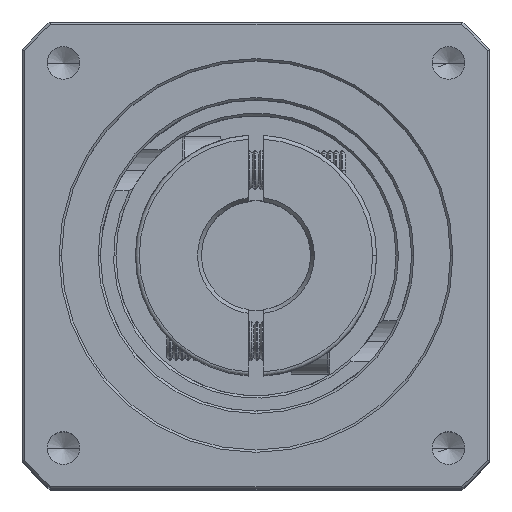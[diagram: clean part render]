
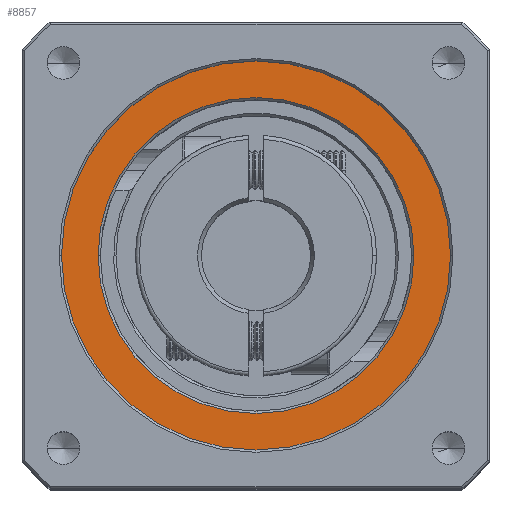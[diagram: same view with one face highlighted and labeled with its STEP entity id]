
A CAD part, top view. The second image highlights one B-rep face of the part: STEP entity #8857.
In plain terms, the highlighted planar face has unit normal (0, 0, 1).
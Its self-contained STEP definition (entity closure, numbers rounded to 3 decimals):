
#472 = EDGE_CURVE ( 'NONE', #55440, #30357, #14495, .T. ) ;
#2373 = CIRCLE ( 'NONE', #54409, 25. ) ;
#4090 = CARTESIAN_POINT ( 'NONE',  ( -62.157, 27.835, 27.243 ) ) ;
#4104 = ORIENTED_EDGE ( 'NONE', *, *, #37632, .T. ) ;
#6331 = FACE_BOUND ( 'NONE', #46602, .T. ) ;
#6811 = AXIS2_PLACEMENT_3D ( 'NONE', #9299, #56035, #15975 ) ;
#8857 = ADVANCED_FACE ( 'NONE', ( #6331, #21917 ), #73955, .T. ) ;
#9299 = CARTESIAN_POINT ( 'NONE',  ( -62.157, 27.835, 27.243 ) ) ;
#10065 = AXIS2_PLACEMENT_3D ( 'NONE', #4090, #50854, #10812 ) ;
#10812 = DIRECTION ( 'NONE',  ( 1., 0., 0. ) ) ;
#14223 = CARTESIAN_POINT ( 'NONE',  ( -62.157, 27.835, 27.243 ) ) ;
#14495 = CIRCLE ( 'NONE', #43330, 25. ) ;
#15975 = DIRECTION ( 'NONE',  ( 1., 0., 0. ) ) ;
#17378 = EDGE_CURVE ( 'NONE', #39615, #19668, #58118, .T. ) ;
#19668 = VERTEX_POINT ( 'NONE', #85259 ) ;
#19761 = DIRECTION ( 'NONE',  ( 0., 0., 1. ) ) ;
#20897 = DIRECTION ( 'NONE',  ( 1., 0., 0. ) ) ;
#21917 = FACE_OUTER_BOUND ( 'NONE', #59471, .T. ) ;
#30357 = VERTEX_POINT ( 'NONE', #81981 ) ;
#36546 = AXIS2_PLACEMENT_3D ( 'NONE', #14223, #60957, #20897 ) ;
#37632 = EDGE_CURVE ( 'NONE', #19668, #39615, #83260, .T. ) ;
#39615 = VERTEX_POINT ( 'NONE', #72231 ) ;
#42891 = ORIENTED_EDGE ( 'NONE', *, *, #75954, .T. ) ;
#43306 = CARTESIAN_POINT ( 'NONE',  ( -87.157, 27.835, 27.243 ) ) ;
#43330 = AXIS2_PLACEMENT_3D ( 'NONE', #54586, #54604, #54382 ) ;
#46602 = EDGE_LOOP ( 'NONE', ( #4104, #50142 ) ) ;
#50142 = ORIENTED_EDGE ( 'NONE', *, *, #17378, .T. ) ;
#50854 = DIRECTION ( 'NONE',  ( 0., 0., -1. ) ) ;
#54382 = DIRECTION ( 'NONE',  ( 1., 0., 0. ) ) ;
#54409 = AXIS2_PLACEMENT_3D ( 'NONE', #59813, #19761, #66464 ) ;
#54586 = CARTESIAN_POINT ( 'NONE',  ( -62.157, 27.835, 27.243 ) ) ;
#54604 = DIRECTION ( 'NONE',  ( 0., 0., 1. ) ) ;
#55440 = VERTEX_POINT ( 'NONE', #43306 ) ;
#56035 = DIRECTION ( 'NONE',  ( 0., 0., -1. ) ) ;
#58118 = CIRCLE ( 'NONE', #10065, 20.3 ) ;
#59471 = EDGE_LOOP ( 'NONE', ( #42891, #80444 ) ) ;
#59813 = CARTESIAN_POINT ( 'NONE',  ( -62.157, 27.835, 27.243 ) ) ;
#60957 = DIRECTION ( 'NONE',  ( 0., 0., 1. ) ) ;
#66464 = DIRECTION ( 'NONE',  ( 1., 0., 0. ) ) ;
#72231 = CARTESIAN_POINT ( 'NONE',  ( -82.457, 27.835, 27.243 ) ) ;
#73955 = PLANE ( 'NONE',  #36546 ) ;
#75954 = EDGE_CURVE ( 'NONE', #30357, #55440, #2373, .T. ) ;
#80444 = ORIENTED_EDGE ( 'NONE', *, *, #472, .T. ) ;
#81981 = CARTESIAN_POINT ( 'NONE',  ( -37.157, 27.835, 27.243 ) ) ;
#83260 = CIRCLE ( 'NONE', #6811, 20.3 ) ;
#85259 = CARTESIAN_POINT ( 'NONE',  ( -41.857, 27.835, 27.243 ) ) ;
